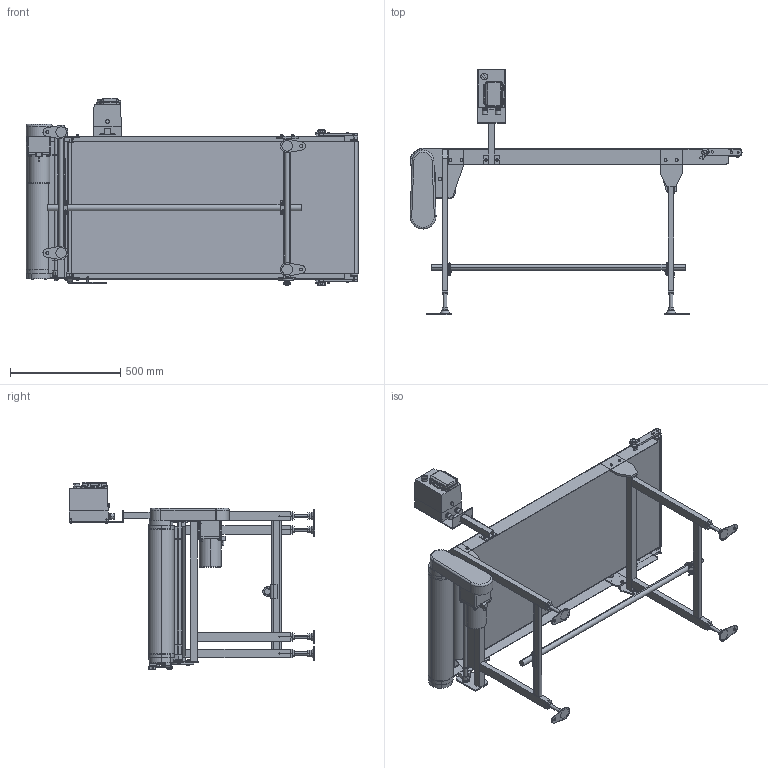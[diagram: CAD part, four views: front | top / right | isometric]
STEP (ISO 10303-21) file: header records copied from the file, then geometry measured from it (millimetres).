
FILE_DESCRIPTION (( 'STEP AP214' ), '1' );
FILE_NAME ('TBH-UD-309-600-150-L-IV-60.STEP', '2023-05-11T00:40:21', ( '' ), ( '' ), 'SwSTEP 2.0', 'SolidWorks 2017', '' );
FILE_SCHEMA (( 'AUTOMOTIVE_DESIGN' ));
Length unit declared in the file: millimetre
Products named in the file (1): TBH-UD-309-600-150-L-IV-60
Bounding box: 1505 x 1111 x 849.6 mm (x, y, z)
Volume: 26130974.1 mm3; surface area: 8167509.1 mm2
Topology: 77 solids, 77 shells, 2481 faces, 5999 edges, 3811 vertices
Faces by surface type: plane 1352, cylinder 715, cone 176, bspline 148, torus 80, sphere 10
Entity records: 78364 total; most frequent: CARTESIAN_POINT 19311, DIRECTION 12186, ORIENTED_EDGE 11950, EDGE_CURVE 5975, AXIS2_PLACEMENT_3D 4353, VERTEX_POINT 3811, LINE 3480, VECTOR 3480
